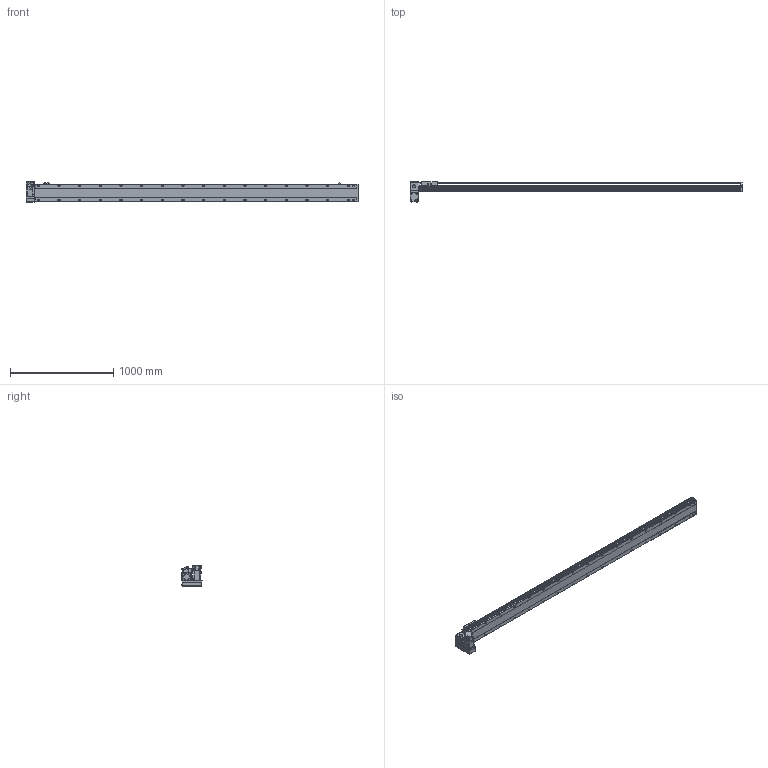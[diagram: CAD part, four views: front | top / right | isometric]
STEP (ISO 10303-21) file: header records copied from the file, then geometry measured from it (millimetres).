
FILE_DESCRIPTION(/* description */ ('STEP AP214'),/* implementation_level */ '2;1');
FILE_NAME(/* name */ 'PBS170-P40-S2850-LD-T75-C1-N(0)',/* time_stamp */ '2022-06-07T09:56:48+02:00',/* author */ ('License CC BY-ND 4.0'),/* organization */ ('CADENAS'),/* preprocessor_version */ 'ST-DEVELOPER v18.102',/* originating_system */ 'PARTsolutions',/* authorisation */ ' ');
FILE_SCHEMA (('AUTOMOTIVE_DESIGN {1 0 10303 214 3 1 1}'));
Length unit declared in the file: millimetre
Products named in the file (7): PBS170-P40-S2850-LD-T75-C1-N(0); PBS170_sensor; PBS170_plant; PBS170_sliser; T75-p1; PBS170T-LD_motors; PBS170-S2850()_body
Assembly tree (8 placements, depth 2):
  PBS170-P40-S2850-LD-T75-C1-N(0)
    PBS170_sensor  x3
    PBS170_plant
    PBS170_sliser
    T75-p1
    PBS170T-LD_motors
    PBS170-S2850()_body
Bounding box: 3213 x 201 x 197.3 mm (x, y, z)
Volume: 24169485.8 mm3; surface area: 3031626.1 mm2
Topology: 8 solids, 8 shells, 1226 faces, 3235 edges, 2108 vertices
Faces by surface type: plane 741, cylinder 411, cone 64, sphere 8, torus 2
Full cylindrical faces by diameter (mm): 3.242 x4, 4 x2, 4.4 x4, 4.5 x6, 4.917 x4, 6 x9, 6.647 x42, 7 x2, 7.5 x4, 8 x8, 8.5 x34, 10 x4, 10.5 x34, 11 x2, 30 x2, 40 x1, 70 x1
Entity records: 35240 total; most frequent: CARTESIAN_POINT 6721, DIRECTION 5930, ORIENTED_EDGE 5568, EDGE_CURVE 2784, AXIS2_PLACEMENT_3D 2107, VERTEX_POINT 1946, LINE 1716, VECTOR 1716
